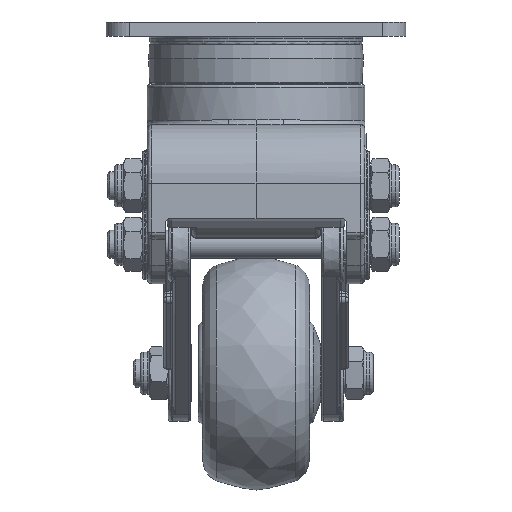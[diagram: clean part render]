
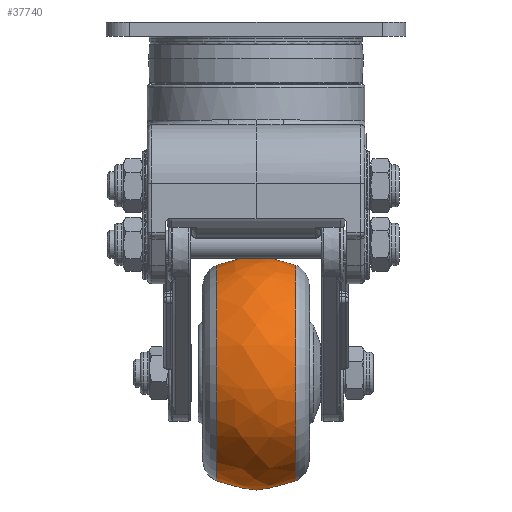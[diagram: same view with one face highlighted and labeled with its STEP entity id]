
A CAD part, left-side view. The second image highlights one B-rep face of the part: STEP entity #37740.
In plain terms, the highlighted free-form (B-spline) face has degree [2, 2] with [3, 9] control points.
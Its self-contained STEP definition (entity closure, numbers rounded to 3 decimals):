
#18=(
BOUNDED_SURFACE()
B_SPLINE_SURFACE(2,2,((#61493,#61494,#61495,#61496,#61497,#61498,#61499,
#61500,#61501),(#61502,#61503,#61504,#61505,#61506,#61507,#61508,#61509,
#61510),(#61511,#61512,#61513,#61514,#61515,#61516,#61517,#61518,#61519)),
 .UNSPECIFIED.,.F.,.T.,.F.)
B_SPLINE_SURFACE_WITH_KNOTS((3,3),(3,2,2,2,3),(-0.44,0.44),
(-3.142,-1.571,0.,1.571,3.142),
 .UNSPECIFIED.)
GEOMETRIC_REPRESENTATION_ITEM()
RATIONAL_B_SPLINE_SURFACE(((1.,0.707,1.,0.707,1.,
0.707,1.,0.707,1.),(0.905,0.64,
0.905,0.64,0.905,0.64,
0.905,0.64,0.905),(1.,0.707,
1.,0.707,1.,0.707,1.,0.707,1.)))
REPRESENTATION_ITEM('')
SURFACE()
);
#9472=FACE_OUTER_BOUND('',#11599,.T.);
#11599=EDGE_LOOP('',(#28174,#28175,#28176,#28177,#28178,#28179));
#13411=CIRCLE('',#40369,23.096);
#13412=CIRCLE('',#40370,23.096);
#13413=CIRCLE('',#40371,20.);
#13414=CIRCLE('',#40372,23.096);
#13415=CIRCLE('',#40373,23.096);
#15616=VERTEX_POINT('',#61520);
#15617=VERTEX_POINT('',#61521);
#15618=VERTEX_POINT('',#61524);
#15619=VERTEX_POINT('',#61526);
#20137=EDGE_CURVE('',#15616,#15617,#13411,.T.);
#20138=EDGE_CURVE('',#15617,#15616,#13412,.T.);
#20139=EDGE_CURVE('',#15617,#15618,#13413,.T.);
#20140=EDGE_CURVE('',#15618,#15619,#13414,.T.);
#20141=EDGE_CURVE('',#15619,#15618,#13415,.T.);
#28174=ORIENTED_EDGE('',*,*,#20137,.F.);
#28175=ORIENTED_EDGE('',*,*,#20138,.F.);
#28176=ORIENTED_EDGE('',*,*,#20139,.T.);
#28177=ORIENTED_EDGE('',*,*,#20140,.T.);
#28178=ORIENTED_EDGE('',*,*,#20141,.T.);
#28179=ORIENTED_EDGE('',*,*,#20139,.F.);
#37740=ADVANCED_FACE('',(#9472),#18,.F.);
#40369=AXIS2_PLACEMENT_3D('',#61522,#45841,#45842);
#40370=AXIS2_PLACEMENT_3D('',#61523,#45843,#45844);
#40371=AXIS2_PLACEMENT_3D('',#61525,#45845,#45846);
#40372=AXIS2_PLACEMENT_3D('',#61527,#45847,#45848);
#40373=AXIS2_PLACEMENT_3D('',#61528,#45849,#45850);
#45841=DIRECTION('center_axis',(0.,-1.,0.));
#45842=DIRECTION('ref_axis',(-0.412,0.,-0.911));
#45843=DIRECTION('center_axis',(0.,-1.,0.));
#45844=DIRECTION('ref_axis',(-0.412,0.,-0.911));
#45845=DIRECTION('center_axis',(-0.911,0.,
0.412));
#45846=DIRECTION('ref_axis',(0.412,0.,0.911));
#45847=DIRECTION('center_axis',(0.,-1.,0.));
#45848=DIRECTION('ref_axis',(-0.412,0.,-0.911));
#45849=DIRECTION('center_axis',(0.,-1.,0.));
#45850=DIRECTION('ref_axis',(-0.412,0.,-0.911));
#61493=CARTESIAN_POINT('Ctrl Pts',(-31.899,-34.055,
-0.436));
#61494=CARTESIAN_POINT('Ctrl Pts',(-52.944,-34.055,
9.081));
#61495=CARTESIAN_POINT('Ctrl Pts',(-62.461,-34.055,
-11.963));
#61496=CARTESIAN_POINT('Ctrl Pts',(-71.978,-34.055,
-33.007));
#61497=CARTESIAN_POINT('Ctrl Pts',(-50.934,-34.055,
-42.525));
#61498=CARTESIAN_POINT('Ctrl Pts',(-29.89,-34.055,
-52.042));
#61499=CARTESIAN_POINT('Ctrl Pts',(-20.373,-34.055,
-30.998));
#61500=CARTESIAN_POINT('Ctrl Pts',(-10.855,-34.055,
-9.954));
#61501=CARTESIAN_POINT('Ctrl Pts',(-31.899,-34.055,
-0.436));
#61502=CARTESIAN_POINT('Ctrl Pts',(-30.248,-42.571,
3.215));
#61503=CARTESIAN_POINT('Ctrl Pts',(-54.944,-42.571,
14.384));
#61504=CARTESIAN_POINT('Ctrl Pts',(-66.113,-42.571,
-10.312));
#61505=CARTESIAN_POINT('Ctrl Pts',(-77.281,-42.571,
-35.007));
#61506=CARTESIAN_POINT('Ctrl Pts',(-52.586,-42.571,
-46.176));
#61507=CARTESIAN_POINT('Ctrl Pts',(-27.89,-42.571,
-57.345));
#61508=CARTESIAN_POINT('Ctrl Pts',(-16.721,-42.571,
-32.649));
#61509=CARTESIAN_POINT('Ctrl Pts',(-5.552,-42.571,
-7.953));
#61510=CARTESIAN_POINT('Ctrl Pts',(-30.248,-42.571,
3.215));
#61511=CARTESIAN_POINT('Ctrl Pts',(-31.899,-51.087,-0.436));
#61512=CARTESIAN_POINT('Ctrl Pts',(-52.944,-51.087,
9.081));
#61513=CARTESIAN_POINT('Ctrl Pts',(-62.461,-51.087,
-11.963));
#61514=CARTESIAN_POINT('Ctrl Pts',(-71.978,-51.087,-33.007));
#61515=CARTESIAN_POINT('Ctrl Pts',(-50.934,-51.087,
-42.525));
#61516=CARTESIAN_POINT('Ctrl Pts',(-29.89,-51.087,-52.042));
#61517=CARTESIAN_POINT('Ctrl Pts',(-20.373,-51.087,-30.998));
#61518=CARTESIAN_POINT('Ctrl Pts',(-10.855,-51.087,
-9.954));
#61519=CARTESIAN_POINT('Ctrl Pts',(-31.899,-51.087,-0.436));
#61520=CARTESIAN_POINT('',(-50.934,-51.087,-42.525));
#61521=CARTESIAN_POINT('',(-31.899,-51.087,-0.436));
#61522=CARTESIAN_POINT('Origin',(-41.417,-51.087,-21.48));
#61523=CARTESIAN_POINT('Origin',(-41.417,-51.087,-21.48));
#61524=CARTESIAN_POINT('',(-31.899,-34.055,-0.436));
#61525=CARTESIAN_POINT('Origin',(-39.356,-42.571,-16.925));
#61526=CARTESIAN_POINT('',(-50.934,-34.055,-42.525));
#61527=CARTESIAN_POINT('Origin',(-41.417,-34.055,-21.48));
#61528=CARTESIAN_POINT('Origin',(-41.417,-34.055,-21.48));
